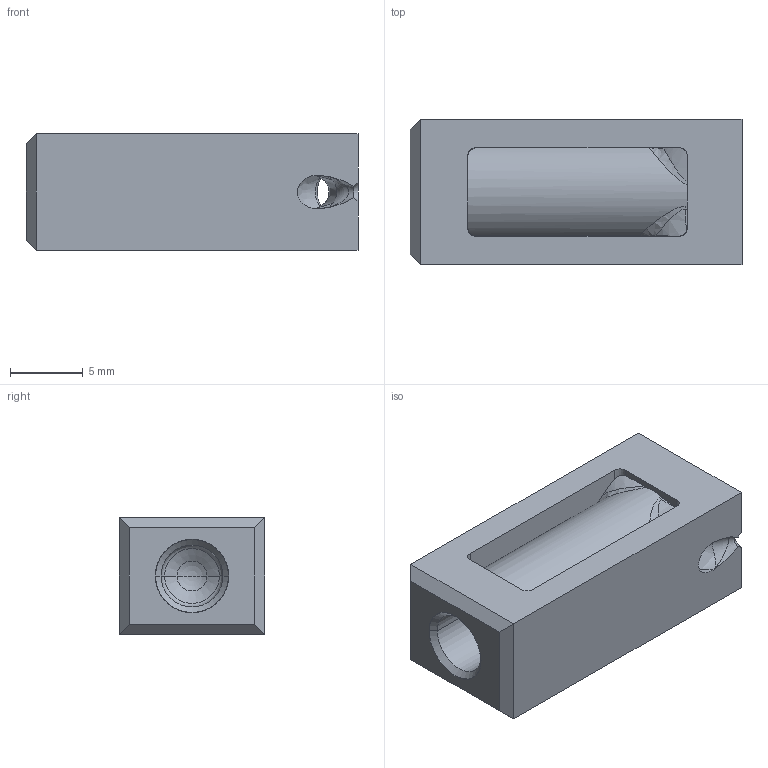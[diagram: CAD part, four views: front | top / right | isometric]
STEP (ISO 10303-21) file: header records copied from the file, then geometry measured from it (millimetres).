
FILE_DESCRIPTION((''),'2;1');
FILE_NAME('TGS10-08-S1','2004-03-24T',('tmeister'),(''),'PRO/ENGINEER BY PARAMETRIC TECHNOLOGY CORPORATION, 2002270','PRO/ENGINEER BY PARAMETRIC TECHNOLOGY CORPORATION, 2002270','');
FILE_SCHEMA(('CONFIG_CONTROL_DESIGN'));
Length unit declared in the file: millimetre
Products named in the file (1): TGS10-08-S1
Bounding box: 22.8 x 10 x 8 mm (x, y, z)
Volume: 1366.9 mm3; surface area: 1595 mm2
Topology: 1 solids, 2 shells, 70 faces, 248 edges, 179 vertices
Faces by surface type: plane 22, bspline 20, cone 13, cylinder 10, sphere 3, torus 2
Entity records: 4941 total; most frequent: CARTESIAN_POINT 3183, ORIENTED_EDGE 346, DIRECTION 271, EDGE_CURVE 175, B_SPLINE_CURVE_WITH_KNOTS 114, VERTEX_POINT 110, AXIS2_PLACEMENT_3D 91, VECTOR 89
